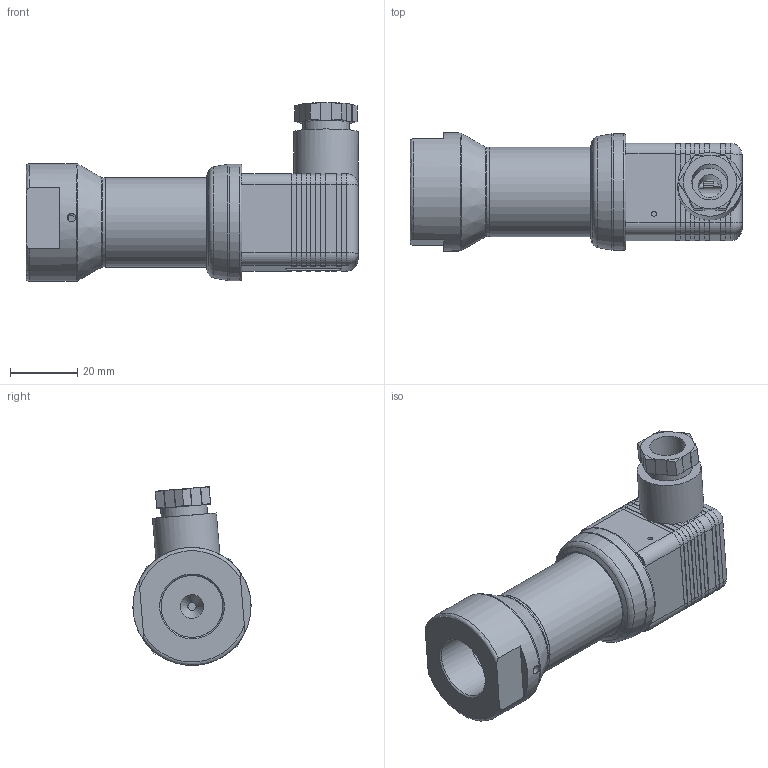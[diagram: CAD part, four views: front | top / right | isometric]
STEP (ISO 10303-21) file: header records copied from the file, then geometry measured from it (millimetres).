
FILE_DESCRIPTION(/* description */ (''),/* implementation_level */ '2;1');
FILE_NAME(/* name */ 'C:\Daten\BDS inventor\_Working - MM\stp\DMP334, ISO4400, M20x1,5.stp',/* time_stamp */ '2017-10-12T14:35:10+02:00',/* author */ ('cz1231'),/* organization */ (''),/* preprocessor_version */ 'ST-DEVELOPER v16.5',/* originating_system */ 'Autodesk Inventor 2017',/* authorisation */ '');
FILE_SCHEMA (('AUTOMOTIVE_DESIGN { 1 0 10303 214 3 1 1 }'));
Length unit declared in the file: millimetre
Products named in the file (14): DMP334, ISO4400, M20x1,5; 14.160.000; ST.080.091; 14.404.028; 14.103.028; Siegert 6K061.1; EL.005.001Ex white -  length 60 mm; EL.005.001Ex brown -  length 60 mm; EL.005.001Ex green -  length 60 mm; EL.005.001Ex yellow -  length 60 mm; EL.005.001Ex pink -  length 60 mm; EL.005.001Ex grey -  length 60 mm; Stiftplatte_Hirschmann_GSP3-U1; Ord.No.: 2765006.3
Assembly tree (13 placements, depth 3):
  DMP334, ISO4400, M20x1,5
    14.160.000
    ST.080.091
    14.404.028
      14.103.028
      Siegert 6K061.1
      EL.005.001Ex white -  length 60 mm
      EL.005.001Ex brown -  length 60 mm
      EL.005.001Ex green -  length 60 mm
      EL.005.001Ex yellow -  length 60 mm
      EL.005.001Ex pink -  length 60 mm
      EL.005.001Ex grey -  length 60 mm
    Stiftplatte_Hirschmann_GSP3-U1
    Ord.No.: 2765006.3
Bounding box: 98.4 x 35 x 52.92 mm (x, y, z)
Volume: 55388.7 mm3; surface area: 28003.4 mm2
Topology: 12 solids, 14 shells, 1238 faces, 3339 edges, 2200 vertices
Faces by surface type: plane 819, bspline 206, cylinder 163, cone 32, torus 14, sphere 4
Full cylindrical faces by diameter (mm): 0.01 x6, 0.65 x12, 1.45 x6, 1.5 x5, 1.6 x4, 2.06 x1, 2.262 x1, 2.4 x1, 2.459 x2, 2.5 x2, 2.9 x1, 3.2 x1, 3.5 x1, 3.8 x1, 4 x1, 6.7 x1, 6.9 x1, 7.8 x1, 8 x1, 8.89 x1, 9.5 x1, 10 x1, 10.7 x1, 13.76 x1, 18.376 x1, 19 x2, 20.4 x1, 21.5 x1, 21.8 x1, 22 x1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
Entity records: 41129 total; most frequent: CARTESIAN_POINT 10216, ORIENTED_EDGE 6424, DIRECTION 5294, EDGE_CURVE 3212, LINE 2330, VECTOR 2330, VERTEX_POINT 2181, AXIS2_PLACEMENT_3D 1482
